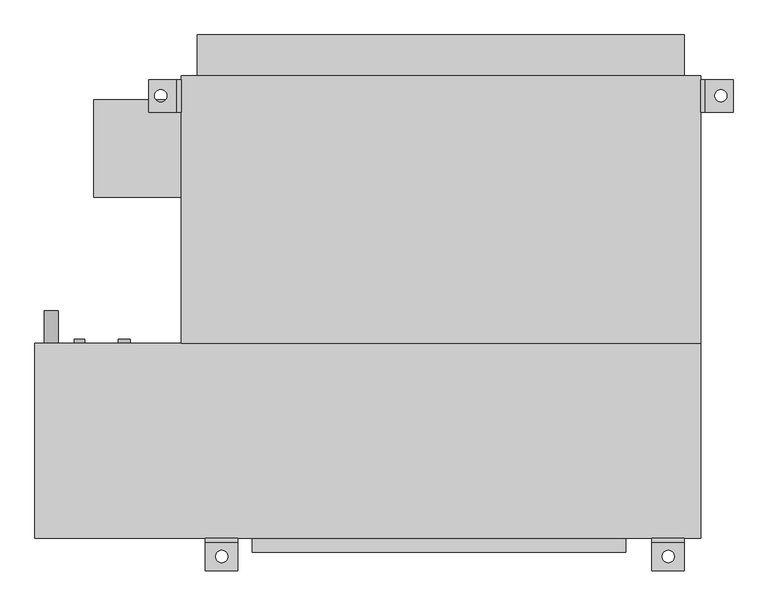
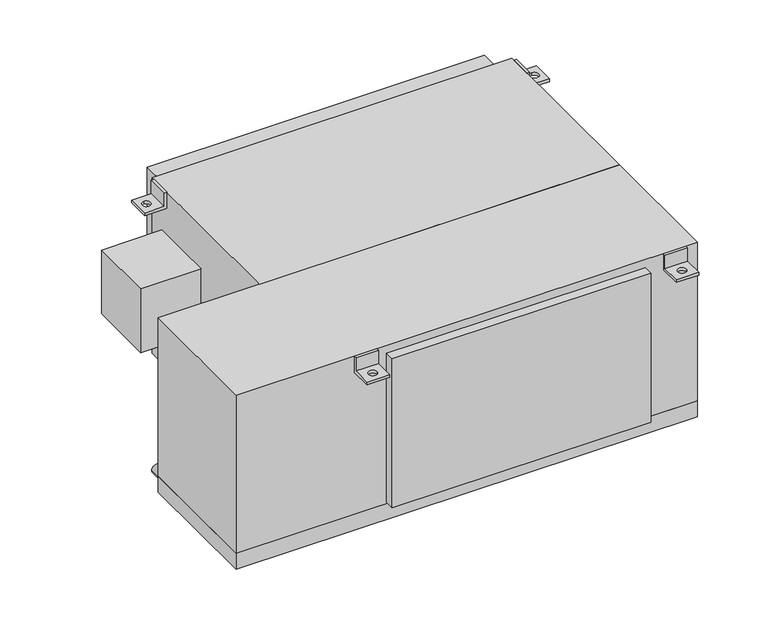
"""IFC4 building model written with IfcOpenShell, lengths in millimetres: proxy geometry, Concealed_High_Capacity_Horizontal_Fan_Coil_Unit_With_Plenum_-_42DCA_-_CARRIER_-_4-Pipe_ValveEnclosure_LH_2022 : Size 10 - 277v/60Hz/1Ph - 6/2 Coil."""

from ifc_helpers import new_model, si_unit, point, frame, frame_2d, origin, place, context, project, spatial, polyline, circle_curve, trimmed, segment, composite_curve, outline, extrude, source, transform, mapped, element, save
from ifc_brep_helpers import plane_surface, revolved_surface, advanced_brep


def mechanical_equipment_0c4eee6a(model_context):
    return source(origin(), model_context, "Body", "SolidModel", [
        advanced_brep(
        [(533.4, -390.525, 0.0), (533.4, -396.875, 0.0), (533.4, -396.875, -31.75), (533.4, -441.325, -31.75), (533.4, -441.325, -38.1), (533.4, -390.525, -38.1), (482.6, -390.525, 0.0), (482.6, -390.525, -38.1), (482.6, -441.325, -38.1), (482.6, -441.325, -31.75), (482.6, -396.875, -31.75), (482.6, -396.875, 0.0), (498.475, -419.1, -31.75), (517.525, -419.1, -31.75), (517.525, -419.1, -38.1), (498.475, -419.1, -38.1)],
        [
            (0, 1),
            (1, 2),
            (2, 3),
            (3, 4),
            (4, 5),
            (5, 0),
            (6, 7),
            (7, 8),
            (8, 9),
            (9, 10),
            (10, 11),
            (11, 6),
            (0, 6),
            (11, 1),
            (10, 2),
            (9, 3),
            (12, 13, circle_curve(frame((508.0, -419.1, -31.75), z_axis=(0.0, 0.0, -1.0), x_axis=(1.0, 0.0, 0.0)), 9.525)),
            (13, 12, circle_curve(frame((508.0, -419.1, -31.75), z_axis=(0.0, 0.0, -1.0), x_axis=(1.0, 0.0, 0.0)), 9.525)),
            (8, 4),
            (7, 5),
            (14, 15, circle_curve(frame((508.0, -419.1, -38.1), z_axis=(0.0, 0.0, 1.0), x_axis=(1.0, 0.0, 0.0)), 9.525)),
            (15, 14, circle_curve(frame((508.0, -419.1, -38.1), z_axis=(0.0, 0.0, 1.0), x_axis=(1.0, 0.0, 0.0)), 9.525)),
            (12, 15),
            (14, 13),
        ],
        [
            plane_surface(frame((533.4, -396.875, 0.0), z_axis=(1.0, 0.0, 0.0), x_axis=(0.0, -1.0, 0.0))),
            plane_surface(frame((482.6, -396.875, 0.0), z_axis=(-1.0, 0.0, 0.0), x_axis=(0.0, 1.0, 0.0))),
            plane_surface(frame((533.4, -390.525, 0.0), z_axis=(0.0, 0.0, 1.0), x_axis=(-1.0, 0.0, 0.0))),
            plane_surface(frame((533.4, -396.875, 0.0), z_axis=(0.0, -1.0, 0.0), x_axis=(-1.0, 0.0, 0.0))),
            plane_surface(frame((533.4, -396.875, -31.75), z_axis=(0.0, 0.0, 1.0), x_axis=(-1.0, 0.0, 0.0))),
            plane_surface(frame((533.4, -441.325, -31.75), z_axis=(0.0, -1.0, 0.0), x_axis=(-1.0, 0.0, 0.0))),
            plane_surface(frame((533.4, -441.325, -38.1), z_axis=(0.0, 0.0, -1.0), x_axis=(-1.0, 0.0, 0.0))),
            plane_surface(frame((533.4, -390.525, -38.1), z_axis=(0.0, 1.0, 0.0), x_axis=(-1.0, 0.0, 0.0))),
            revolved_surface(polyline([(517.525, -419.1, -38.1), (517.525, -419.1, -31.75)]), (508.0, -419.1, -31.75), (0.0, 0.0, -1.0)),
        ],
        [
            (0, [[1, 2, 3, 4, 5, 6]]),
            (1, [[7, 8, 9, 10, 11, 12]]),
            (2, [[-1, 13, -12, 14]]),
            (3, [[-2, -14, -11, 15]]),
            (4, [[-3, -15, -10, 16], [17, 18]]),
            (5, [[-4, -16, -9, 19]]),
            (6, [[-5, -19, -8, 20], [21, 22]]),
            (7, [[-6, -20, -7, -13]]),
            (8, [[23, -21, 24, -17]]),
            (8, [[-23, -18, -24, -22]]),
        ],
    ),
        advanced_brep(
        [(-165.1, -390.525, -38.1), (-165.1, -390.525, 0.0), (-165.1, -396.875, 0.0), (-165.1, -396.875, -31.75), (-165.1, -441.325, -31.75), (-165.1, -441.325, -38.1), (-215.9, -390.525, -38.1), (-215.9, -441.325, -38.1), (-215.9, -441.325, -31.75), (-215.9, -396.875, -31.75), (-215.9, -396.875, 0.0), (-215.9, -390.525, 0.0), (-200.025, -419.1, -31.75), (-180.975, -419.1, -31.75), (-180.975, -419.1, -38.1), (-200.025, -419.1, -38.1)],
        [
            (0, 1),
            (1, 2),
            (2, 3),
            (3, 4),
            (4, 5),
            (5, 0),
            (6, 7),
            (7, 8),
            (8, 9),
            (9, 10),
            (10, 11),
            (11, 6),
            (0, 6),
            (11, 1),
            (10, 2),
            (9, 3),
            (8, 4),
            (12, 13, circle_curve(frame((-190.5, -419.1, -31.75), z_axis=(0.0, 0.0, -1.0), x_axis=(1.0, 0.0, 0.0)), 9.525)),
            (13, 12, circle_curve(frame((-190.5, -419.1, -31.75), z_axis=(0.0, 0.0, -1.0), x_axis=(1.0, 0.0, 0.0)), 9.525)),
            (7, 5),
            (14, 15, circle_curve(frame((-190.5, -419.1, -38.1), z_axis=(0.0, 0.0, 1.0), x_axis=(1.0, 0.0, 0.0)), 9.525)),
            (15, 14, circle_curve(frame((-190.5, -419.1, -38.1), z_axis=(0.0, 0.0, 1.0), x_axis=(1.0, 0.0, 0.0)), 9.525)),
            (12, 15),
            (14, 13),
        ],
        [
            plane_surface(frame((-165.1, -390.525, -38.1), z_axis=(1.0, 0.0, 0.0), x_axis=(0.0, 0.0, 1.0))),
            plane_surface(frame((-215.9, -390.525, -38.1), z_axis=(-1.0, 0.0, 0.0), x_axis=(0.0, 0.0, -1.0))),
            plane_surface(frame((-165.1, -390.525, -38.1), z_axis=(0.0, 1.0, 0.0), x_axis=(-1.0, 0.0, 0.0))),
            plane_surface(frame((-165.1, -390.525, 0.0), z_axis=(0.0, 0.0, 1.0), x_axis=(-1.0, 0.0, 0.0))),
            plane_surface(frame((-165.1, -396.875, 0.0), z_axis=(0.0, -1.0, 0.0), x_axis=(-1.0, 0.0, 0.0))),
            plane_surface(frame((-165.1, -396.875, -31.75), z_axis=(0.0, 0.0, 1.0), x_axis=(-1.0, 0.0, 0.0))),
            plane_surface(frame((-165.1, -441.325, -31.75), z_axis=(0.0, -1.0, 0.0), x_axis=(-1.0, 0.0, 0.0))),
            plane_surface(frame((-165.1, -441.325, -38.1), z_axis=(0.0, 0.0, -1.0), x_axis=(-1.0, 0.0, 0.0))),
            revolved_surface(polyline([(-180.975, -419.1, -38.1), (-180.975, -419.1, -31.75)]), (-190.5, -419.1, -31.75), (0.0, 0.0, -1.0)),
        ],
        [
            (0, [[1, 2, 3, 4, 5, 6]]),
            (1, [[7, 8, 9, 10, 11, 12]]),
            (2, [[-1, 13, -12, 14]]),
            (3, [[-2, -14, -11, 15]]),
            (4, [[-3, -15, -10, 16]]),
            (5, [[-4, -16, -9, 17], [18, 19]]),
            (6, [[-5, -17, -8, 20]]),
            (7, [[-6, -20, -7, -13], [21, 22]]),
            (8, [[23, -21, 24, -18]]),
            (8, [[-23, -19, -24, -22]]),
        ],
    ),
        extrude(outline(composite_curve([segment(trimmed(circle_curve(frame_2d((-400.05, -457.2)), 11.1125), [point((-400.05, -468.3125))], [point((-400.05, -446.0875))], False, "CARTESIAN"), True, "CONTINUOUS"), segment(trimmed(circle_curve(frame_2d((-400.05, -457.2)), 11.1125), [point((-400.05, -446.0875))], [point((-400.05, -468.3125))], False, "CARTESIAN"), True, "CONTINUOUS")], self_intersect=False)), frame((0.0, -85.725, 0.0), z_axis=(0.0, 1.0, 0.0), x_axis=(0.0, 0.0, 1.0)), (0.0, 0.0, 1.0), 50.8),
        extrude(outline(composite_curve([segment(trimmed(circle_curve(frame_2d((-44.45, -342.9)), 9.525), [point((-44.45, -352.425))], [point((-44.45, -333.375))], False, "CARTESIAN"), True, "CONTINUOUS"), segment(trimmed(circle_curve(frame_2d((-44.45, -342.9)), 9.525), [point((-44.45, -333.375))], [point((-44.45, -352.425))], False, "CARTESIAN"), True, "CONTINUOUS")], self_intersect=False)), frame((0.0, -85.725, 0.0), z_axis=(0.0, 1.0, 0.0), x_axis=(0.0, 0.0, 1.0)), (0.0, 0.0, 1.0), 6.35),
        extrude(outline(composite_curve([segment(trimmed(circle_curve(frame_2d((-276.225, -342.9)), 9.525), [point((-276.225, -352.425))], [point((-276.225, -333.375))], False, "CARTESIAN"), True, "CONTINUOUS"), segment(trimmed(circle_curve(frame_2d((-276.225, -342.9)), 9.525), [point((-276.225, -333.375))], [point((-276.225, -352.425))], False, "CARTESIAN"), True, "CONTINUOUS")], self_intersect=False)), frame((0.0, -85.725, 0.0), z_axis=(0.0, 1.0, 0.0), x_axis=(0.0, 0.0, 1.0)), (0.0, 0.0, 1.0), 6.35),
        extrude(outline(composite_curve([segment(trimmed(circle_curve(frame_2d((-69.85, -412.75)), 7.9375), [point((-69.85, -420.6875))], [point((-69.85, -404.8125))], False, "CARTESIAN"), True, "CONTINUOUS"), segment(trimmed(circle_curve(frame_2d((-69.85, -412.75)), 7.9375), [point((-69.85, -404.8125))], [point((-69.85, -420.6875))], False, "CARTESIAN"), True, "CONTINUOUS")], self_intersect=False)), frame((0.0, -85.725, 0.0), z_axis=(0.0, 1.0, 0.0), x_axis=(0.0, 0.0, 1.0)), (0.0, 0.0, 1.0), 6.35),
        extrude(outline(composite_curve([segment(trimmed(circle_curve(frame_2d((-285.75, -412.75)), 7.9375), [point((-285.75, -420.6875))], [point((-285.75, -404.8125))], False, "CARTESIAN"), True, "CONTINUOUS"), segment(trimmed(circle_curve(frame_2d((-285.75, -412.75)), 7.9375), [point((-285.75, -404.8125))], [point((-285.75, -420.6875))], False, "CARTESIAN"), True, "CONTINUOUS")], self_intersect=False)), frame((0.0, -85.725, 0.0), z_axis=(0.0, 1.0, 0.0), x_axis=(0.0, 0.0, 1.0)), (0.0, 0.0, 1.0), 6.35),
        advanced_brep(
        [(-254.0, 327.025, -38.1), (-304.8, 327.025, -38.1), (-304.8, 327.025, -31.75), (-260.35, 327.025, -31.75), (-260.35, 327.025, 0.0), (-254.0, 327.025, 0.0), (-254.0, 276.225, -38.1), (-254.0, 276.225, 0.0), (-260.35, 276.225, 0.0), (-260.35, 276.225, -31.75), (-304.8, 276.225, -31.75), (-304.8, 276.225, -38.1), (-285.75, 292.1, -38.1), (-285.75, 311.15, -38.1), (-285.75, 311.15, -31.75), (-285.75, 292.1, -31.75)],
        [
            (0, 1),
            (1, 2),
            (2, 3),
            (3, 4),
            (4, 5),
            (5, 0),
            (6, 7),
            (7, 8),
            (8, 9),
            (9, 10),
            (10, 11),
            (11, 6),
            (0, 6),
            (11, 1),
            (12, 13, circle_curve(frame((-285.75, 301.625, -38.1), z_axis=(0.0, 0.0, 1.0), x_axis=(0.0, -1.0, 0.0)), 9.525)),
            (13, 12, circle_curve(frame((-285.75, 301.625, -38.1), z_axis=(0.0, 0.0, 1.0), x_axis=(0.0, -1.0, 0.0)), 9.525)),
            (10, 2),
            (9, 3),
            (14, 15, circle_curve(frame((-285.75, 301.625, -31.75), z_axis=(0.0, 0.0, -1.0), x_axis=(0.0, -1.0, 0.0)), 9.525)),
            (15, 14, circle_curve(frame((-285.75, 301.625, -31.75), z_axis=(0.0, 0.0, -1.0), x_axis=(0.0, -1.0, 0.0)), 9.525)),
            (8, 4),
            (7, 5),
            (14, 13),
            (12, 15),
        ],
        [
            plane_surface(frame((-254.0, 327.025, -38.1), z_axis=(0.0, 1.0, 0.0), x_axis=(-1.0, 0.0, 0.0))),
            plane_surface(frame((-254.0, 276.225, -38.1), z_axis=(0.0, -1.0, 0.0), x_axis=(1.0, 0.0, 0.0))),
            plane_surface(frame((-254.0, 327.025, -38.1), z_axis=(0.0, 0.0, -1.0), x_axis=(0.0, -1.0, 0.0))),
            plane_surface(frame((-304.8, 327.025, -38.1), z_axis=(-1.0, 0.0, 0.0), x_axis=(0.0, -1.0, 0.0))),
            plane_surface(frame((-304.8, 327.025, -31.75), z_axis=(0.0, 0.0, 1.0), x_axis=(0.0, -1.0, 0.0))),
            plane_surface(frame((-260.35, 327.025, -31.75), z_axis=(-1.0, 0.0, 0.0), x_axis=(0.0, -1.0, 0.0))),
            plane_surface(frame((-260.35, 327.025, 0.0), z_axis=(0.0, 0.0, 1.0), x_axis=(0.0, -1.0, 0.0))),
            plane_surface(frame((-254.0, 327.025, 0.0), z_axis=(1.0, 0.0, 0.0), x_axis=(0.0, -1.0, 0.0))),
            revolved_surface(polyline([(-285.75, 292.1, -38.1), (-285.75, 292.1, -31.75)]), (-285.75, 301.625, -31.75), (0.0, 0.0, -1.0)),
        ],
        [
            (0, [[1, 2, 3, 4, 5, 6]]),
            (1, [[7, 8, 9, 10, 11, 12]]),
            (2, [[-1, 13, -12, 14], [15, 16]]),
            (3, [[-2, -14, -11, 17]]),
            (4, [[-3, -17, -10, 18], [19, 20]]),
            (5, [[-4, -18, -9, 21]]),
            (6, [[-5, -21, -8, 22]]),
            (7, [[-6, -22, -7, -13]]),
            (8, [[23, -15, 24, -19]]),
            (8, [[-23, -20, -24, -16]]),
        ],
    ),
        advanced_brep(
        [(558.8, 327.025, -38.1), (558.8, 327.025, 0.0), (565.15, 327.025, 0.0), (565.15, 327.025, -31.75), (609.6, 327.025, -31.75), (609.6, 327.025, -38.1), (558.8, 276.225, -38.1), (609.6, 276.225, -38.1), (609.6, 276.225, -31.75), (565.15, 276.225, -31.75), (565.15, 276.225, 0.0), (558.8, 276.225, 0.0), (590.55, 311.15, -31.75), (590.55, 292.1, -31.75), (590.55, 292.1, -38.1), (590.55, 311.15, -38.1)],
        [
            (0, 1),
            (1, 2),
            (2, 3),
            (3, 4),
            (4, 5),
            (5, 0),
            (6, 7),
            (7, 8),
            (8, 9),
            (9, 10),
            (10, 11),
            (11, 6),
            (0, 6),
            (11, 1),
            (10, 2),
            (9, 3),
            (8, 4),
            (12, 13, circle_curve(frame((590.55, 301.625, -31.75), z_axis=(0.0, 0.0, -1.0), x_axis=(0.0, -1.0, 0.0)), 9.525)),
            (13, 12, circle_curve(frame((590.55, 301.625, -31.75), z_axis=(0.0, 0.0, -1.0), x_axis=(0.0, -1.0, 0.0)), 9.525)),
            (7, 5),
            (14, 15, circle_curve(frame((590.55, 301.625, -38.1), z_axis=(0.0, 0.0, 1.0), x_axis=(0.0, -1.0, 0.0)), 9.525)),
            (15, 14, circle_curve(frame((590.55, 301.625, -38.1), z_axis=(0.0, 0.0, 1.0), x_axis=(0.0, -1.0, 0.0)), 9.525)),
            (12, 15),
            (14, 13),
        ],
        [
            plane_surface(frame((-254.0, 327.025, -38.1), z_axis=(0.0, 1.0, 0.0), x_axis=(-1.0, 0.0, 0.0))),
            plane_surface(frame((-254.0, 276.225, -38.1), z_axis=(0.0, -1.0, 0.0), x_axis=(1.0, 0.0, 0.0))),
            plane_surface(frame((558.8, 327.025, -38.1), z_axis=(-1.0, 0.0, 0.0), x_axis=(0.0, -1.0, 0.0))),
            plane_surface(frame((558.8, 327.025, 0.0), z_axis=(0.0, 0.0, 1.0), x_axis=(0.0, -1.0, 0.0))),
            plane_surface(frame((565.15, 327.025, 0.0), z_axis=(1.0, 0.0, 0.0), x_axis=(0.0, -1.0, 0.0))),
            plane_surface(frame((565.15, 327.025, -31.75), z_axis=(0.0, 0.0, 1.0), x_axis=(0.0, -1.0, 0.0))),
            plane_surface(frame((609.6, 327.025, -31.75), z_axis=(1.0, 0.0, 0.0), x_axis=(0.0, -1.0, 0.0))),
            plane_surface(frame((609.6, 327.025, -38.1), z_axis=(0.0, 0.0, -1.0), x_axis=(0.0, -1.0, 0.0))),
            revolved_surface(polyline([(590.55, 292.1, -38.1), (590.55, 292.1, -31.75)]), (590.55, 301.625, -31.75), (0.0, 0.0, -1.0)),
        ],
        [
            (0, [[1, 2, 3, 4, 5, 6]]),
            (1, [[7, 8, 9, 10, 11, 12]]),
            (2, [[-1, 13, -12, 14]]),
            (3, [[-2, -14, -11, 15]]),
            (4, [[-3, -15, -10, 16]]),
            (5, [[-4, -16, -9, 17], [18, 19]]),
            (6, [[-5, -17, -8, 20]]),
            (7, [[-6, -20, -7, -13], [21, 22]]),
            (8, [[23, -21, 24, -18]]),
            (8, [[-23, -19, -24, -22]]),
        ],
    ),
        extrude(outline(polyline([(-228.6, 396.875), (533.4, 396.875), (533.4, 333.375), (-228.6, 333.375), (-228.6, 396.875)])), frame((0.0, 0.0, -377.825), z_axis=(0.0, 0.0, 1.0), x_axis=(1.0, 0.0, 0.0)), (0.0, 0.0, 1.0), 355.6),
        extrude(outline(polyline([(-390.525, 142.875), (-390.525, 295.275), (-254.0, 295.275), (-254.0, 142.875), (-390.525, 142.875)])), frame((0.0, 0.0, -254.0), z_axis=(0.0, 0.0, 1.0), x_axis=(1.0, 0.0, 0.0)), (0.0, 0.0, 1.0), 152.4),
        extrude(outline(polyline([(441.325, -412.75), (-142.875, -412.75), (-142.875, -390.525), (441.325, -390.525), (441.325, -412.75)])), frame((0.0, 0.0, -374.65), z_axis=(0.0, 0.0, 1.0), x_axis=(1.0, 0.0, 0.0)), (0.0, 0.0, 1.0), 355.6),
        extrude(outline(polyline([(558.8, -85.725), (-254.0, -85.725), (-254.0, 333.375), (558.8, 333.375), (558.8, -85.725)])), frame((0.0, 0.0, -419.1), z_axis=(0.0, 0.0, 1.0), x_axis=(1.0, 0.0, 0.0)), (0.0, 0.0, 1.0), 419.1),
        extrude(outline(polyline([(558.8, -85.725), (558.8, -390.525), (-482.6, -390.525), (-482.6, -85.725), (558.8, -85.725)])), frame((0.0, 0.0, -377.825), z_axis=(0.0, 0.0, 1.0), x_axis=(1.0, 0.0, 0.0)), (0.0, 0.0, 1.0), 377.825),
        extrude(outline(polyline([(558.8, -85.725), (558.8, -390.525), (-482.6, -390.525), (-482.6, -85.725), (558.8, -85.725)])), frame((0.0, 0.0, -415.925), z_axis=(0.0, 0.0, 1.0), x_axis=(1.0, 0.0, 0.0)), (0.0, 0.0, 1.0), 38.1),
    ])


if __name__ == "__main__":
    model = new_model("IFC4")
    model_context = context("Model", 3, world=origin())
    ifc_project = project(units=[si_unit("LENGTHUNIT", "METRE", prefix="MILLI")], contexts=[model_context])
    site = spatial("IfcSite", under=ifc_project)
    building = spatial("IfcBuilding", under=site)
    placement = place(None, origin())
    mechanical_equipment_shape = mechanical_equipment_0c4eee6a(model_context)
    element("IfcBuildingElementProxy", 1, Name="Concealed_High_Capacity_Horizontal_Fan_Coil_Unit_With_Plenum_-_42DCA_-_CARRIER_-_4-Pipe_ValveEnclosure_LH_2022 : Size 10 - 277v/60Hz/1Ph - 6/2 Coil", ObjectType="Concealed_High_Capacity_Horizontal_Fan_Coil_Unit_With_Plenum_-_42DCA_-_CARRIER_-_4-Pipe_ValveEnclosure_LH_2022 : Size 10 - 277v/60Hz/1Ph - 6/2 Coil", at=placement, inside=building, context=model_context, shape_type="MappedRepresentation", body=[
        mapped(mechanical_equipment_shape, transform((0.0, 0.0, 0.0), x_axis=(1.0, 0.0, 0.0), y_axis=(0.0, 1.0, 0.0), z_axis=(0.0, 0.0, 1.0))),
    ])
    save(model, "model.ifc")
